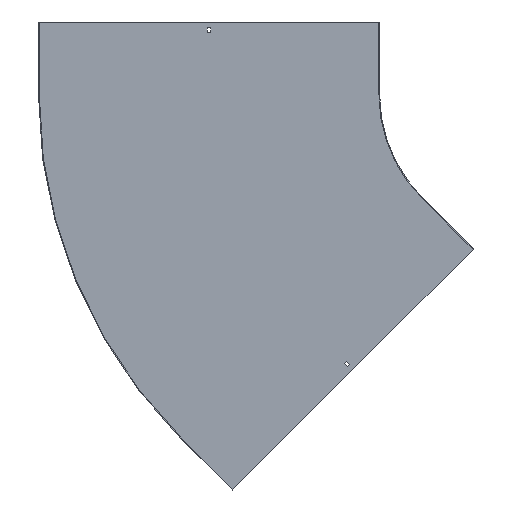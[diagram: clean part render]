
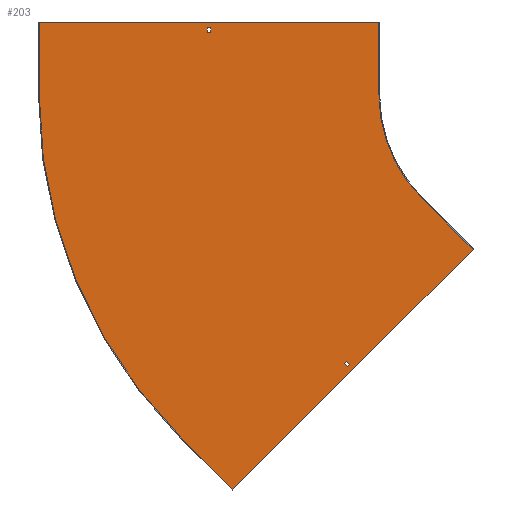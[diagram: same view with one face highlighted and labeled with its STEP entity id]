
A CAD part, front view. The second image highlights one B-rep face of the part: STEP entity #203.
In plain terms, the highlighted planar face has unit normal (0, -1, 0).
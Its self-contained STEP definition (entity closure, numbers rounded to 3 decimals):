
#3 = EDGE_CURVE ( 'NONE', #697, #322, #454, .T. ) ;
#6 = LINE ( 'NONE', #535, #702 ) ;
#11 = FACE_BOUND ( 'NONE', #765, .T. ) ;
#14 = DIRECTION ( 'NONE',  ( 0., 0., -1. ) ) ;
#33 = VERTEX_POINT ( 'NONE', #524 ) ;
#37 = ORIENTED_EDGE ( 'NONE', *, *, #419, .F. ) ;
#40 = DIRECTION ( 'NONE',  ( 0., 0., -1. ) ) ;
#41 = CARTESIAN_POINT ( 'NONE',  ( -105.005, -1.5, -317.137 ) ) ;
#43 = DIRECTION ( 'NONE',  ( 0., 0., 1. ) ) ;
#47 = CARTESIAN_POINT ( 'NONE',  ( -653.25, -1.5, 138. ) ) ;
#54 = VECTOR ( 'NONE', #61, 1000. ) ;
#61 = DIRECTION ( 'NONE',  ( 1., 0., 0. ) ) ;
#66 = LINE ( 'NONE', #807, #498 ) ;
#69 = DIRECTION ( 'NONE',  ( -1., 0., 0. ) ) ;
#73 = DIRECTION ( 'NONE',  ( 0., -1., 0. ) ) ;
#76 = DIRECTION ( 'NONE',  ( 0.707, 0., 0.707 ) ) ;
#90 = ORIENTED_EDGE ( 'NONE', *, *, #131, .F. ) ;
#92 = VECTOR ( 'NONE', #14, 1000. ) ;
#101 = CARTESIAN_POINT ( 'NONE',  ( -646.75, -1.5, 138. ) ) ;
#103 = VERTEX_POINT ( 'NONE', #717 ) ;
#108 = VERTEX_POINT ( 'NONE', #119 ) ;
#109 = ORIENTED_EDGE ( 'NONE', *, *, #171, .F. ) ;
#117 = VERTEX_POINT ( 'NONE', #227 ) ;
#119 = CARTESIAN_POINT ( 'NONE',  ( -366.105, -1.5, -548.538 ) ) ;
#120 = ORIENTED_EDGE ( 'NONE', *, *, #661, .F. ) ;
#125 = CIRCLE ( 'NONE', #781, 300. ) ;
#129 = CARTESIAN_POINT ( 'NONE',  ( -646.75, -1.5, 129. ) ) ;
#131 = EDGE_CURVE ( 'NONE', #117, #659, #665, .T. ) ;
#139 = LINE ( 'NONE', #469, #92 ) ;
#144 = FACE_BOUND ( 'NONE', #822, .T. ) ;
#147 = CARTESIAN_POINT ( 'NONE',  ( -601.041, -1.5, -813.173 ) ) ;
#151 = DIRECTION ( 'NONE',  ( 0., -1., 0. ) ) ;
#155 = ORIENTED_EDGE ( 'NONE', *, *, #355, .T. ) ;
#171 = EDGE_CURVE ( 'NONE', #103, #266, #6, .T. ) ;
#172 = LINE ( 'NONE', #433, #212 ) ;
#178 = LINE ( 'NONE', #517, #184 ) ;
#181 = LINE ( 'NONE', #41, #399 ) ;
#184 = VECTOR ( 'NONE', #43, 1000. ) ;
#203 = ADVANCED_FACE ( 'NONE', ( #11, #744, #144 ), #220, .T. ) ;
#211 = ORIENTED_EDGE ( 'NONE', *, *, #804, .F. ) ;
#212 = VECTOR ( 'NONE', #362, 1000. ) ;
#214 = DIRECTION ( 'NONE',  ( 0., 1., 0. ) ) ;
#220 = PLANE ( 'NONE',  #812 ) ;
#227 = CARTESIAN_POINT ( 'NONE',  ( -212.132, -1.5, -212.132 ) ) ;
#229 = CARTESIAN_POINT ( 'NONE',  ( -1000., -1.5, 0. ) ) ;
#244 = DIRECTION ( 'NONE',  ( -0.707, 0., -0.707 ) ) ;
#249 = VECTOR ( 'NONE', #253, 1000. ) ;
#251 = ORIENTED_EDGE ( 'NONE', *, *, #265, .F. ) ;
#253 = DIRECTION ( 'NONE',  ( 0., 0., 1. ) ) ;
#256 = CARTESIAN_POINT ( 'NONE',  ( -1001.5, -1.5, 150. ) ) ;
#260 = ORIENTED_EDGE ( 'NONE', *, *, #637, .T. ) ;
#261 = EDGE_CURVE ( 'NONE', #33, #485, #354, .T. ) ;
#265 = EDGE_CURVE ( 'NONE', #567, #33, #178, .T. ) ;
#266 = VERTEX_POINT ( 'NONE', #788 ) ;
#280 = CARTESIAN_POINT ( 'NONE',  ( 0., -1.5, 129. ) ) ;
#286 = CARTESIAN_POINT ( 'NONE',  ( -212.132, -1.5, -212.132 ) ) ;
#289 = CARTESIAN_POINT ( 'NONE',  ( -653.25, -1.5, 0. ) ) ;
#291 = CARTESIAN_POINT ( 'NONE',  ( -300., -1.5, 0. ) ) ;
#303 = EDGE_CURVE ( 'NONE', #266, #108, #701, .T. ) ;
#305 = LINE ( 'NONE', #716, #528 ) ;
#306 = EDGE_CURVE ( 'NONE', #485, #801, #305, .T. ) ;
#311 = DIRECTION ( 'NONE',  ( 1., 0., 0. ) ) ;
#322 = VERTEX_POINT ( 'NONE', #101 ) ;
#331 = DIRECTION ( 'NONE',  ( -0.707, 0., -0.707 ) ) ;
#334 = VECTOR ( 'NONE', #347, 1000. ) ;
#347 = DIRECTION ( 'NONE',  ( -0.707, 0., 0.707 ) ) ;
#348 = CARTESIAN_POINT ( 'NONE',  ( -601.041, -1.5, -813.173 ) ) ;
#354 = LINE ( 'NONE', #256, #447 ) ;
#355 = EDGE_CURVE ( 'NONE', #404, #482, #508, .T. ) ;
#358 = VECTOR ( 'NONE', #69, 1000. ) ;
#361 = VERTEX_POINT ( 'NONE', #464 ) ;
#362 = DIRECTION ( 'NONE',  ( 0.707, 0., -0.707 ) ) ;
#368 = CARTESIAN_POINT ( 'NONE',  ( -457.321, -1.5, -457.321 ) ) ;
#372 = ORIENTED_EDGE ( 'NONE', *, *, #306, .F. ) ;
#381 = ORIENTED_EDGE ( 'NONE', *, *, #760, .T. ) ;
#384 = DIRECTION ( 'NONE',  ( 0., 0., -1. ) ) ;
#389 = AXIS2_PLACEMENT_3D ( 'NONE', #669, #214, #465 ) ;
#397 = CARTESIAN_POINT ( 'NONE',  ( -300., -1.5, 150. ) ) ;
#399 = VECTOR ( 'NONE', #244, 1000. ) ;
#404 = VERTEX_POINT ( 'NONE', #129 ) ;
#419 = EDGE_CURVE ( 'NONE', #801, #117, #125, .T. ) ;
#421 = ORIENTED_EDGE ( 'NONE', *, *, #711, .F. ) ;
#433 = CARTESIAN_POINT ( 'NONE',  ( -461.918, -1.5, -461.918 ) ) ;
#447 = VECTOR ( 'NONE', #311, 1000. ) ;
#454 = LINE ( 'NONE', #588, #54 ) ;
#464 = CARTESIAN_POINT ( 'NONE',  ( -370.701, -1.5, -553.134 ) ) ;
#465 = DIRECTION ( 'NONE',  ( 0., 0., -1. ) ) ;
#469 = CARTESIAN_POINT ( 'NONE',  ( -646.75, -1.5, 0. ) ) ;
#471 = VECTOR ( 'NONE', #635, 1000. ) ;
#482 = VERTEX_POINT ( 'NONE', #737 ) ;
#484 = CARTESIAN_POINT ( 'NONE',  ( 0., -1.5, 0. ) ) ;
#485 = VERTEX_POINT ( 'NONE', #397 ) ;
#498 = VECTOR ( 'NONE', #331, 1000. ) ;
#508 = LINE ( 'NONE', #280, #358 ) ;
#517 = CARTESIAN_POINT ( 'NONE',  ( -1000., -1.5, 0. ) ) ;
#524 = CARTESIAN_POINT ( 'NONE',  ( -1000., -1.5, 150. ) ) ;
#528 = VECTOR ( 'NONE', #40, 1000. ) ;
#533 = CIRCLE ( 'NONE', #389, 1000. ) ;
#535 = CARTESIAN_POINT ( 'NONE',  ( 97.581, -1.5, -97.581 ) ) ;
#564 = CARTESIAN_POINT ( 'NONE',  ( -106.066, -1.5, -318.198 ) ) ;
#567 = VERTEX_POINT ( 'NONE', #229 ) ;
#571 = ORIENTED_EDGE ( 'NONE', *, *, #303, .F. ) ;
#579 = VERTEX_POINT ( 'NONE', #761 ) ;
#588 = CARTESIAN_POINT ( 'NONE',  ( 0., -1.5, 138. ) ) ;
#593 = DIRECTION ( 'NONE',  ( 0.707, 0., -0.707 ) ) ;
#601 = CARTESIAN_POINT ( 'NONE',  ( 0., -1.5, 0. ) ) ;
#611 = LINE ( 'NONE', #289, #249 ) ;
#615 = DIRECTION ( 'NONE',  ( 0., 0., -1. ) ) ;
#632 = EDGE_CURVE ( 'NONE', #809, #579, #747, .T. ) ;
#634 = EDGE_LOOP ( 'NONE', ( #728, #251, #211, #741, #120, #90, #37, #372 ) ) ;
#635 = DIRECTION ( 'NONE',  ( -0.707, 0., 0.707 ) ) ;
#636 = VECTOR ( 'NONE', #593, 1000. ) ;
#637 = EDGE_CURVE ( 'NONE', #482, #697, #611, .T. ) ;
#659 = VERTEX_POINT ( 'NONE', #564 ) ;
#661 = EDGE_CURVE ( 'NONE', #659, #809, #181, .T. ) ;
#665 = LINE ( 'NONE', #286, #636 ) ;
#669 = CARTESIAN_POINT ( 'NONE',  ( 0., -1.5, 0. ) ) ;
#697 = VERTEX_POINT ( 'NONE', #47 ) ;
#701 = LINE ( 'NONE', #368, #471 ) ;
#702 = VECTOR ( 'NONE', #76, 1000. ) ;
#711 = EDGE_CURVE ( 'NONE', #361, #103, #172, .T. ) ;
#716 = CARTESIAN_POINT ( 'NONE',  ( -300., -1.5, 150. ) ) ;
#717 = CARTESIAN_POINT ( 'NONE',  ( -364.337, -1.5, -559.498 ) ) ;
#728 = ORIENTED_EDGE ( 'NONE', *, *, #261, .F. ) ;
#737 = CARTESIAN_POINT ( 'NONE',  ( -653.25, -1.5, 129. ) ) ;
#741 = ORIENTED_EDGE ( 'NONE', *, *, #632, .F. ) ;
#744 = FACE_OUTER_BOUND ( 'NONE', #634, .T. ) ;
#747 = LINE ( 'NONE', #147, #334 ) ;
#756 = ORIENTED_EDGE ( 'NONE', *, *, #3, .T. ) ;
#760 = EDGE_CURVE ( 'NONE', #322, #404, #139, .T. ) ;
#761 = CARTESIAN_POINT ( 'NONE',  ( -707.107, -1.5, -707.107 ) ) ;
#765 = EDGE_LOOP ( 'NONE', ( #571, #109, #421, #852 ) ) ;
#781 = AXIS2_PLACEMENT_3D ( 'NONE', #601, #73, #384 ) ;
#788 = CARTESIAN_POINT ( 'NONE',  ( -359.741, -1.5, -554.902 ) ) ;
#801 = VERTEX_POINT ( 'NONE', #291 ) ;
#804 = EDGE_CURVE ( 'NONE', #579, #567, #533, .T. ) ;
#807 = CARTESIAN_POINT ( 'NONE',  ( 91.217, -1.5, -91.217 ) ) ;
#809 = VERTEX_POINT ( 'NONE', #348 ) ;
#812 = AXIS2_PLACEMENT_3D ( 'NONE', #484, #151, #615 ) ;
#822 = EDGE_LOOP ( 'NONE', ( #756, #381, #155, #260 ) ) ;
#850 = EDGE_CURVE ( 'NONE', #108, #361, #66, .T. ) ;
#852 = ORIENTED_EDGE ( 'NONE', *, *, #850, .F. ) ;
